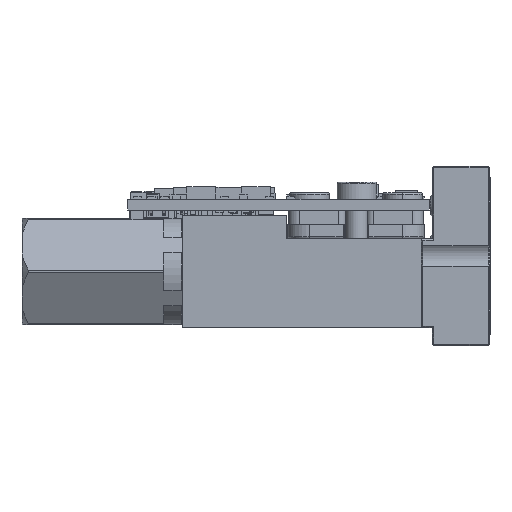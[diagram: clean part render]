
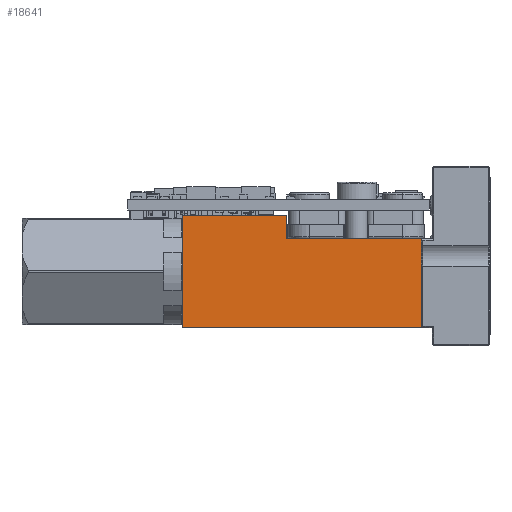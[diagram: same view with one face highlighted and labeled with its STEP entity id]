
A CAD part, left-side view. The second image highlights one B-rep face of the part: STEP entity #18641.
In plain terms, the highlighted planar face has unit normal (-1, 0, 0).
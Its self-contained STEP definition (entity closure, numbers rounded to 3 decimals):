
#1314 = EDGE_CURVE ( 'NONE', #69028, #96922, #110294, .T. ) ;
#5423 = FACE_OUTER_BOUND ( 'NONE', #67501, .T. ) ;
#5753 = EDGE_CURVE ( 'NONE', #22659, #66088, #115698, .T. ) ;
#7972 = AXIS2_PLACEMENT_3D ( 'NONE', #10262, #72816, #19273 ) ;
#10262 = CARTESIAN_POINT ( 'NONE',  ( -22.3, -54.661, -10. ) ) ;
#11565 = VECTOR ( 'NONE', #38720, 1000. ) ;
#11670 = CARTESIAN_POINT ( 'NONE',  ( -22.3, -54.661, 5.7 ) ) ;
#13503 = DIRECTION ( 'NONE',  ( 0., 0., 1. ) ) ;
#13888 = CARTESIAN_POINT ( 'NONE',  ( -22.3, 28.3, 2.4 ) ) ;
#14942 = DIRECTION ( 'NONE',  ( 0., -1., 0. ) ) ;
#17885 = LINE ( 'NONE', #21777, #110234 ) ;
#18641 = ADVANCED_FACE ( 'NONE', ( #5423 ), #90434, .F. ) ;
#19273 = DIRECTION ( 'NONE',  ( 0., 0., -1. ) ) ;
#21777 = CARTESIAN_POINT ( 'NONE',  ( -22.3, 42.8, -10. ) ) ;
#22659 = VERTEX_POINT ( 'NONE', #92892 ) ;
#27173 = CARTESIAN_POINT ( 'NONE',  ( -22.3, 28.3, 2.4 ) ) ;
#32952 = ORIENTED_EDGE ( 'NONE', *, *, #67603, .T. ) ;
#36801 = ORIENTED_EDGE ( 'NONE', *, *, #5753, .F. ) ;
#38194 = LINE ( 'NONE', #11670, #11565 ) ;
#38720 = DIRECTION ( 'NONE',  ( 0., 1., 0. ) ) ;
#41347 = CARTESIAN_POINT ( 'NONE',  ( -22.3, 42.8, 5.7 ) ) ;
#41583 = CARTESIAN_POINT ( 'NONE',  ( -22.3, 8., 2.4 ) ) ;
#41735 = VECTOR ( 'NONE', #13503, 1000. ) ;
#48077 = DIRECTION ( 'NONE',  ( 0., 1., 0. ) ) ;
#49745 = ORIENTED_EDGE ( 'NONE', *, *, #1314, .T. ) ;
#52445 = ORIENTED_EDGE ( 'NONE', *, *, #57184, .F. ) ;
#53726 = CARTESIAN_POINT ( 'NONE',  ( -22.3, 9.5, -10. ) ) ;
#57184 = EDGE_CURVE ( 'NONE', #66088, #58512, #60952, .T. ) ;
#57830 = EDGE_CURVE ( 'NONE', #69028, #22659, #91390, .T. ) ;
#58512 = VERTEX_POINT ( 'NONE', #97717 ) ;
#60952 = LINE ( 'NONE', #101989, #105755 ) ;
#62733 = DIRECTION ( 'NONE',  ( 0., 0., -1. ) ) ;
#66088 = VERTEX_POINT ( 'NONE', #91132 ) ;
#67501 = EDGE_LOOP ( 'NONE', ( #36801, #91969, #49745, #32952, #75089, #52445 ) ) ;
#67566 = VECTOR ( 'NONE', #14942, 1000. ) ;
#67603 = EDGE_CURVE ( 'NONE', #96922, #90305, #38194, .T. ) ;
#69028 = VERTEX_POINT ( 'NONE', #27173 ) ;
#72816 = DIRECTION ( 'NONE',  ( 1., 0., 0. ) ) ;
#75089 = ORIENTED_EDGE ( 'NONE', *, *, #115302, .T. ) ;
#90305 = VERTEX_POINT ( 'NONE', #41347 ) ;
#90434 = PLANE ( 'NONE',  #7972 ) ;
#91132 = CARTESIAN_POINT ( 'NONE',  ( -22.3, 9.5, -10. ) ) ;
#91390 = LINE ( 'NONE', #41583, #67566 ) ;
#91876 = VECTOR ( 'NONE', #62733, 1000. ) ;
#91969 = ORIENTED_EDGE ( 'NONE', *, *, #57830, .F. ) ;
#92892 = CARTESIAN_POINT ( 'NONE',  ( -22.3, 9.5, 2.4 ) ) ;
#96922 = VERTEX_POINT ( 'NONE', #110047 ) ;
#97717 = CARTESIAN_POINT ( 'NONE',  ( -22.3, 42.8, -10. ) ) ;
#101989 = CARTESIAN_POINT ( 'NONE',  ( -22.3, -54.661, -10. ) ) ;
#105755 = VECTOR ( 'NONE', #48077, 1000. ) ;
#110047 = CARTESIAN_POINT ( 'NONE',  ( -22.3, 28.3, 5.7 ) ) ;
#110234 = VECTOR ( 'NONE', #111315, 1000. ) ;
#110294 = LINE ( 'NONE', #13888, #41735 ) ;
#111315 = DIRECTION ( 'NONE',  ( 0., 0., -1. ) ) ;
#115302 = EDGE_CURVE ( 'NONE', #90305, #58512, #17885, .T. ) ;
#115698 = LINE ( 'NONE', #53726, #91876 ) ;
